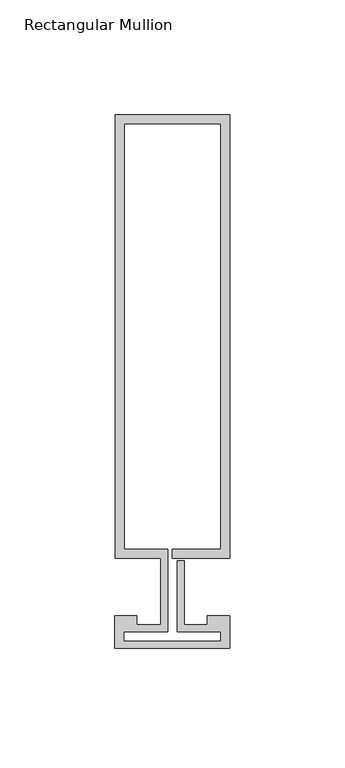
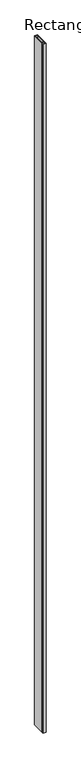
"""IFC4 building model written with IfcOpenShell, lengths in millimetres: member geometry, Rectangular Mullion : Reynaers_CW-50_Mullion-Transom_Horizontal_193.4mm_Facecap-02A."""

import ifcopenshell
import ifcopenshell.guid

model = None  # the IFC model being written
_history = None  # IfcOwnerHistory: only IFC2X3 demands one
_inside = {}  # id of a spatial element -> (the spatial element, [elements in it])
_under = {}  # id of a project, library or spatial element -> (it, [spatial elements below it])
_declared = {}  # id of a project -> (the project, [libraries it declares])
_typed = {}  # id of a type object -> (the type object, [elements of that type])
_made_of = {}  # id of a material, layer set ... -> (it, [elements and type objects made of it])


def new_model(schema):
    """Start an empty IFC model of exactly this schema.

    Asked for "IFC4X3", IfcOpenShell would pick the latest addendum, in which some entities
    have other attributes; the version numbers below select the first issue.
    IFC2X3 requires an IfcOwnerHistory on every rooted entity: one is made here for all.
    """
    global model, _history
    if schema == "IFC4X3":
        model = ifcopenshell.file(schema_version=(4, 3, 0, 0))
    else:
        model = ifcopenshell.file(schema=schema)
    _inside.clear()
    _under.clear()
    _declared.clear()
    _typed.clear()
    _made_of.clear()
    _history = None
    if model.schema == "IFC2X3":
        org = make("IfcOrganization", Name="unknown")
        user = make(
            "IfcPersonAndOrganization",
            ThePerson=make("IfcPerson", FamilyName="unknown"),
            TheOrganization=org,
        )
        app = make(
            "IfcApplication",
            ApplicationDeveloper=org,
            Version="unknown",
            ApplicationFullName="unknown",
            ApplicationIdentifier="unknown",
        )
        _history = make(
            "IfcOwnerHistory",
            OwningUser=user,
            OwningApplication=app,
            ChangeAction="ADDED",
            CreationDate=0,
        )
    return model


def make(cls, **values):
    """One entity of the class cls with the attributes given. An attribute that is None is left unset."""
    return model.create_entity(
        cls, **{name: value for name, value in values.items() if value is not None}
    )


def rooted(cls, **values):
    """An entity with a GlobalId (a new one), such as an element, a storey or a relation."""
    return make(cls, GlobalId=ifcopenshell.guid.new(), OwnerHistory=_history, **values)


def si_unit(unit_type, name, prefix=None):
    """IfcSIUnit, for example si_unit("LENGTHUNIT", "METRE", prefix="MILLI")."""
    return make("IfcSIUnit", UnitType=unit_type, Prefix=prefix, Name=name)


def assignment(units):
    """IfcUnitAssignment: the units of a project."""
    return None if units is None else make("IfcUnitAssignment", Units=units)


def point(xyz):
    """IfcCartesianPoint."""
    return None if xyz is None else make("IfcCartesianPoint", Coordinates=xyz)


def direction(xyz):
    """IfcDirection."""
    return None if xyz is None else make("IfcDirection", DirectionRatios=xyz)


def frame(location, z_axis=None, x_axis=None):
    """IfcAxis2Placement3D, a coordinate frame: its origin and axes. An axis left out is left unset."""
    return make(
        "IfcAxis2Placement3D",
        Location=point(location),
        Axis=direction(z_axis),
        RefDirection=direction(x_axis),
    )


def origin():
    """The frame at (0, 0, 0) with its axes left unset."""
    return frame((0.0, 0.0, 0.0))


def place(relative_to, where):
    """IfcLocalPlacement: puts the frame where relative to a parent placement (None: the world)."""
    return make(
        "IfcLocalPlacement", PlacementRelTo=relative_to, RelativePlacement=where
    )


def context(
    kind, dimensions, precision=None, world=None, true_north=None, identifier=None
):
    """IfcGeometricRepresentationContext, for example the 3D "Model" context."""
    return make(
        "IfcGeometricRepresentationContext",
        ContextIdentifier=identifier,
        ContextType=kind,
        CoordinateSpaceDimension=dimensions,
        Precision=precision,
        WorldCoordinateSystem=world,
        TrueNorth=true_north,
    )


def project(units=None, contexts=None):
    """IfcProject with its units and contexts."""
    return rooted(
        "IfcProject",
        Name="project",
        RepresentationContexts=contexts,
        UnitsInContext=assignment(units),
    )


def spatial(cls, under=None, at=None, **own):
    """A site, building, storey or space (cls), placed at a placement, below another one or the project."""
    s = rooted(cls, ObjectPlacement=at, **own)
    if under is not None:
        _under.setdefault(under.id(), (under, []))[1].append(s)
    return s


def polyline(points):
    """IfcPolyline through the points."""
    return make("IfcPolyline", Points=[point(p) for p in points])


def outline(outer, holes=None, kind="AREA"):
    """IfcArbitraryClosedProfileDef: a profile drawn as a closed curve; with holes, ...WithVoids."""
    if holes is None:
        return make("IfcArbitraryClosedProfileDef", ProfileType=kind, OuterCurve=outer)
    return make(
        "IfcArbitraryProfileDefWithVoids",
        ProfileType=kind,
        OuterCurve=outer,
        InnerCurves=holes,
    )


def extrude(swept, where, along, depth):
    """IfcExtrudedAreaSolid: the profile swept, set in the frame where, extruded along a direction by depth."""
    return make(
        "IfcExtrudedAreaSolid",
        SweptArea=swept,
        Position=where,
        ExtrudedDirection=direction(along),
        Depth=depth,
    )


def shape(context_of_items, identifier, shape_type, items):
    """IfcShapeRepresentation: the items that make up one representation, for example the "Body"."""
    return make(
        "IfcShapeRepresentation",
        ContextOfItems=context_of_items,
        RepresentationIdentifier=identifier,
        RepresentationType=shape_type,
        Items=items,
    )


def source(mapping_origin, context_of_items, identifier, shape_type, items):
    """IfcRepresentationMap: a shape defined once, which mapped items show again and again."""
    return make(
        "IfcRepresentationMap",
        MappingOrigin=mapping_origin,
        MappedRepresentation=shape(context_of_items, identifier, shape_type, items),
    )


def transform(
    local_origin,
    x_axis=None,
    y_axis=None,
    z_axis=None,
    scale=None,
    scale2=None,
    scale3=None,
    uniform=True,
):
    """IfcCartesianTransformationOperator3D, or its non-uniform kind. x_axis, y_axis, z_axis: its Axis1, 2, 3."""
    if uniform:
        return make(
            "IfcCartesianTransformationOperator3D",
            Axis1=direction(x_axis),
            Axis2=direction(y_axis),
            LocalOrigin=point(local_origin),
            Scale=scale,
            Axis3=direction(z_axis),
        )
    return make(
        "IfcCartesianTransformationOperator3DnonUniform",
        Axis1=direction(x_axis),
        Axis2=direction(y_axis),
        LocalOrigin=point(local_origin),
        Scale=scale,
        Axis3=direction(z_axis),
        Scale2=scale2,
        Scale3=scale3,
    )


def mapped(mapping_source, mapping_target):
    """IfcMappedItem: shows the shape of a source again, moved by a transform."""
    return make(
        "IfcMappedItem", MappingSource=mapping_source, MappingTarget=mapping_target
    )


def made_of(thing, what):
    """Note that an element or type object is made of a material, layer set ...; save() writes the relation."""
    if what is not None:
        _made_of.setdefault(what.id(), (what, []))[1].append(thing)
    return thing


def element(
    cls,
    number,
    at=None,
    inside=None,
    cuts=None,
    type_object=None,
    material=None,
    context=None,
    identifier="Body",
    shape_type=None,
    held_by="IfcProductDefinitionShape",
    body=None,
    shapes=None,
    **own,
):
    """One element of the class cls, such as IfcWall. Its Tag is "e" and its number.

    at: its placement. inside: the storey or other place that contains it. cuts: it is an
    opening in that element (IfcRelVoidsElement). A single representation is given by context,
    identifier, shape_type and body (its items); several are given by shapes. held_by: the class
    of the entity that holds the representations. save() writes the other relations.
    """
    e = rooted(cls, Tag="e%d" % number, ObjectPlacement=at, **own)
    if body is not None:
        shapes = [shape(context, identifier, shape_type, body)]
    if shapes is not None:
        e.Representation = make(held_by, Representations=shapes)
    if inside is not None:
        _inside.setdefault(inside.id(), (inside, []))[1].append(e)
    if cuts is not None:
        rooted(
            "IfcRelVoidsElement", RelatingBuildingElement=cuts, RelatedOpeningElement=e
        )
    if type_object is not None:
        _typed.setdefault(type_object.id(), (type_object, []))[1].append(e)
    return made_of(e, material)


def aggregate(whole, parts):
    """IfcRelAggregates: a whole, such as a stair, and the parts it consists of."""
    return rooted("IfcRelAggregates", RelatingObject=whole, RelatedObjects=parts)


def save(model, path):
    """Write the relations noted so far, then the file.

    IfcRelAggregates (storeys below a building ...), IfcRelContainedInSpatialStructure (elements
    in a storey), IfcRelDefinesByType, IfcRelAssociatesMaterial and IfcRelDeclares: one each for
    every whole, place, type object, material and project.
    """
    for whole, parts in _under.values():
        aggregate(whole, parts)
    for where, things in _inside.values():
        rooted(
            "IfcRelContainedInSpatialStructure",
            RelatedElements=things,
            RelatingStructure=where,
        )
    for kind, things in _typed.values():
        rooted("IfcRelDefinesByType", RelatedObjects=things, RelatingType=kind)
    for what, things in _made_of.values():
        rooted("IfcRelAssociatesMaterial", RelatedObjects=things, RelatingMaterial=what)
    for by, libraries in _declared.values():
        rooted("IfcRelDeclares", RelatingContext=by, RelatedDefinitions=libraries)
    model.write(path)


def rectangular_mullion_d7782864(model_context):
    return source(origin(), model_context, "Body", "SweptSolid", [
        extrude(outline(polyline([(-24.8004059, 205.9), (25.1995941, 205.9), (25.1995941, 12.5), (0.0, 12.5), (0.0, 16.5), (21.1995941, 16.5), (21.1995941, 201.9), (-20.8004059, 201.9), (-20.8004059, 16.5), (-1.9004059, 16.5), (-1.9004059, -19.5), (-20.994845, -19.5), (-20.994845, -23.7191338), (21.1995941, -23.7191338), (21.1995941, -19.5), (2.2995941, -19.5), (2.2995941, 11.5), (5.2995941, 11.5), (5.2995941, -16.5), (15.2996495, -16.5), (15.2996495, -12.5), (25.1995941, -12.5), (25.1995941, -26.8), (-24.994845, -26.8), (-24.994845, -12.5), (-15.2996495, -12.5), (-15.2996495, -16.5), (-4.9004059, -16.5), (-4.9004059, 12.5), (-24.8004059, 12.5), (-24.8004059, 205.9)])), frame((0.0, 0.0, -12000.0), z_axis=(0.0, 0.0, 1.0), x_axis=(1.0, 0.0, 0.0)), (0.0, 0.0, 1.0), 12000.0),
    ])


if __name__ == "__main__":
    model = new_model("IFC4")
    model_context = context("Model", 3, world=origin())
    ifc_project = project(units=[si_unit("LENGTHUNIT", "METRE", prefix="MILLI")], contexts=[model_context])
    site = spatial("IfcSite", under=ifc_project)
    building = spatial("IfcBuilding", under=site)
    placement = place(None, origin())
    rectangular_mullion_shape = rectangular_mullion_d7782864(model_context)
    element("IfcMember", 1, ObjectType="Rectangular Mullion : Reynaers_CW-50_Mullion-Transom_Horizontal_193.4mm_Facecap-02A", at=placement, inside=building, context=model_context, shape_type="MappedRepresentation", body=[
        mapped(rectangular_mullion_shape, transform((0.0, 0.0, 0.0), x_axis=(1.0, 0.0, 0.0), y_axis=(0.0, 1.0, 0.0), z_axis=(0.0, 0.0, 1.0))),
    ])
    save(model, "model.ifc")
